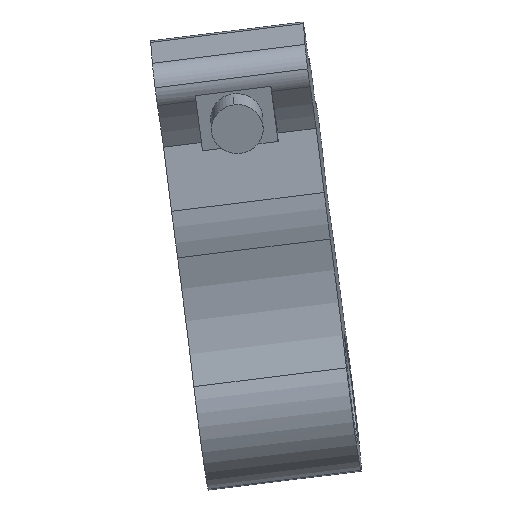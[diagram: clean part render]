
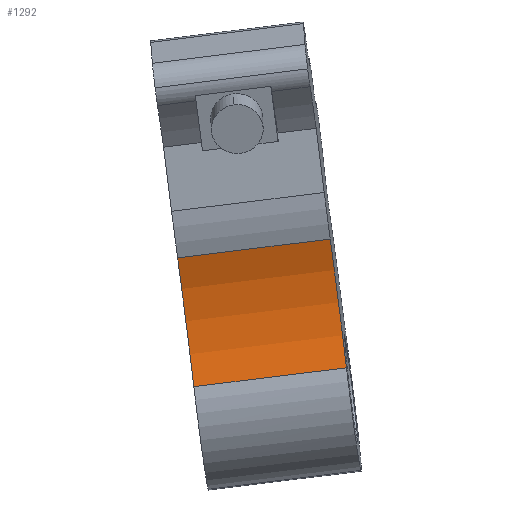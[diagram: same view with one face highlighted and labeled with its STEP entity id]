
A CAD part, front view. The second image highlights one B-rep face of the part: STEP entity #1292.
In plain terms, the highlighted cylindrical face has radius 7.5 mm (diameter 15 mm), a partial arc.
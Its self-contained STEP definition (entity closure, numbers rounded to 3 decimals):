
#1265=AXIS2_PLACEMENT_3D('Cylinder Axis2P3D',#1262,#1263,#1264) ;
#1278=AXIS2_PLACEMENT_3D('Circle Axis2P3D',#1276,#1277,$) ;
#1283=AXIS2_PLACEMENT_3D('Circle Axis2P3D',#1281,#1282,$) ;
#1231=CARTESIAN_POINT('Vertex',(1116.179,-921.777,264.429)) ;
#1248=CARTESIAN_POINT('Vertex',(1122.077,-921.916,265.159)) ;
#1252=CARTESIAN_POINT('Control Point',(1122.077,-921.916,265.159)) ;
#1253=CARTESIAN_POINT('Control Point',(1116.179,-921.777,264.429)) ;
#1262=CARTESIAN_POINT('Axis2P3D Location',(1121.166,-929.164,266.937)) ;
#1267=CARTESIAN_POINT('Line Origine',(1120.938,-922.353,270.07)) ;
#1271=CARTESIAN_POINT('Vertex',(1115.553,-922.226,269.403)) ;
#1273=CARTESIAN_POINT('Vertex',(1121.45,-922.365,270.134)) ;
#1276=CARTESIAN_POINT('Axis2P3D Location',(1115.78,-929.036,266.27)) ;
#1281=CARTESIAN_POINT('Axis2P3D Location',(1121.678,-929.176,267.)) ;
#1263=DIRECTION('Axis2P3D Direction',(-0.992,0.023,-0.123)) ;
#1264=DIRECTION('Axis2P3D XDirection',(-0.044,0.856,0.515)) ;
#1268=DIRECTION('Vector Direction',(-0.992,0.023,-0.123)) ;
#1277=DIRECTION('Axis2P3D Direction',(-0.992,0.023,-0.123)) ;
#1282=DIRECTION('Axis2P3D Direction',(-0.992,0.023,-0.123)) ;
#1269=VECTOR('Line Direction',#1268,1.) ;
#1287=ORIENTED_EDGE('',*,*,#1275,.F.) ;
#1288=ORIENTED_EDGE('',*,*,#1280,.F.) ;
#1289=ORIENTED_EDGE('',*,*,#1254,.F.) ;
#1290=ORIENTED_EDGE('',*,*,#1285,.T.) ;
#1292=ADVANCED_FACE('\X2\4F5379EF\X0\.1',(#1291),#1266,.F.) ;
#1251=B_SPLINE_CURVE_WITH_KNOTS('',1,(#1252,#1253),.UNSPECIFIED.,.F.,.U.,(2,2),(-2.972,2.972),.UNSPECIFIED.) ;
#1279=CIRCLE('generated circle',#1278,7.5) ;
#1284=CIRCLE('generated circle',#1283,7.5) ;
#1266=CYLINDRICAL_SURFACE('generated cylinder',#1265,7.5) ;
#1254=EDGE_CURVE('',#1249,#1232,#1251,.T.) ;
#1275=EDGE_CURVE('',#1272,#1274,#1270,.F.) ;
#1280=EDGE_CURVE('',#1232,#1272,#1279,.F.) ;
#1285=EDGE_CURVE('',#1249,#1274,#1284,.F.) ;
#1286=EDGE_LOOP('',(#1287,#1288,#1289,#1290)) ;
#1291=FACE_OUTER_BOUND('',#1286,.T.) ;
#1270=LINE('Line',#1267,#1269) ;
#1232=VERTEX_POINT('',#1231) ;
#1249=VERTEX_POINT('',#1248) ;
#1272=VERTEX_POINT('',#1271) ;
#1274=VERTEX_POINT('',#1273) ;
